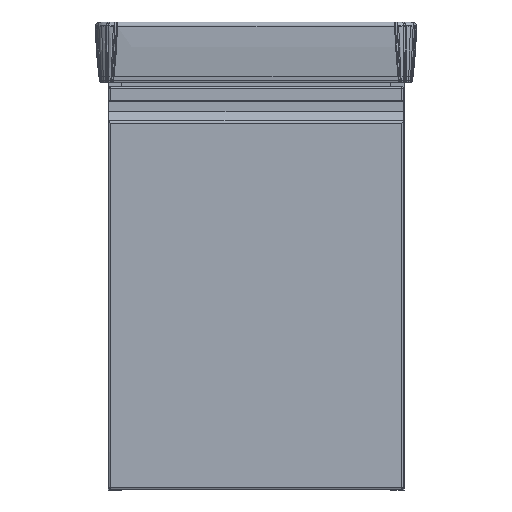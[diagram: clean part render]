
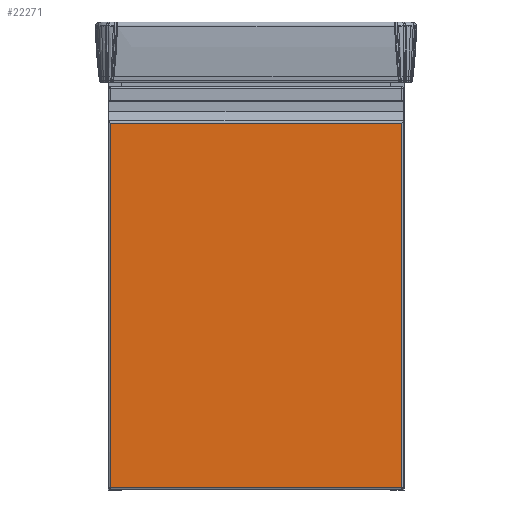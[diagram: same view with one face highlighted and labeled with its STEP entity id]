
A CAD part, front view. The second image highlights one B-rep face of the part: STEP entity #22271.
In plain terms, the highlighted planar face has unit normal (0, -1, 0).
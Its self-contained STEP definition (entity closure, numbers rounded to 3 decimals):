
#1114=PLANE('',#25045);
#2326=FACE_OUTER_BOUND('',#3187,.T.);
#3187=EDGE_LOOP('',(#19863,#19864,#19865,#19866));
#6298=LINE('',#230219,#6801);
#6312=LINE('',#230439,#6815);
#6325=LINE('',#231066,#6828);
#6326=LINE('',#231073,#6829);
#6801=VECTOR('',#27467,510.515);
#6815=VECTOR('',#27517,375.);
#6828=VECTOR('',#27562,510.515);
#6829=VECTOR('',#27575,375.);
#11109=VERTEX_POINT('',#230217);
#11110=VERTEX_POINT('',#230218);
#11125=VERTEX_POINT('',#230438);
#11136=VERTEX_POINT('',#231065);
#15398=EDGE_CURVE('',#11109,#11110,#6298,.T.);
#15425=EDGE_CURVE('',#11110,#11125,#6312,.T.);
#15447=EDGE_CURVE('',#11136,#11125,#6325,.T.);
#15451=EDGE_CURVE('',#11109,#11136,#6326,.T.);
#19863=ORIENTED_EDGE('',*,*,#15451,.T.);
#19864=ORIENTED_EDGE('',*,*,#15447,.T.);
#19865=ORIENTED_EDGE('',*,*,#15425,.F.);
#19866=ORIENTED_EDGE('',*,*,#15398,.F.);
#22271=ADVANCED_FACE('',(#2326),#1114,.F.);
#25045=AXIS2_PLACEMENT_3D('',#231072,#27573,#27574);
#27467=DIRECTION('',(0.,0.,1.));
#27517=DIRECTION('',(1.,0.,0.));
#27562=DIRECTION('',(0.,0.,1.));
#27573=DIRECTION('center_axis',(0.,1.,0.));
#27574=DIRECTION('ref_axis',(0.,0.,-1.));
#27575=DIRECTION('',(1.,0.,0.));
#230217=CARTESIAN_POINT('',(-3206.85,-5887.785,3.));
#230218=CARTESIAN_POINT('',(-3206.85,-5887.785,513.515));
#230219=CARTESIAN_POINT('',(-3206.85,-5887.785,3.));
#230438=CARTESIAN_POINT('',(-2797.833,-5887.785,513.515));
#230439=CARTESIAN_POINT('',(-3178.85,-5887.785,513.515));
#231065=CARTESIAN_POINT('',(-2797.833,-5887.785,3.));
#231066=CARTESIAN_POINT('',(-2797.833,-5887.785,3.));
#231072=CARTESIAN_POINT('Origin',(-3048.833,-5887.785,1.));
#231073=CARTESIAN_POINT('',(-3206.85,-5887.785,3.));
